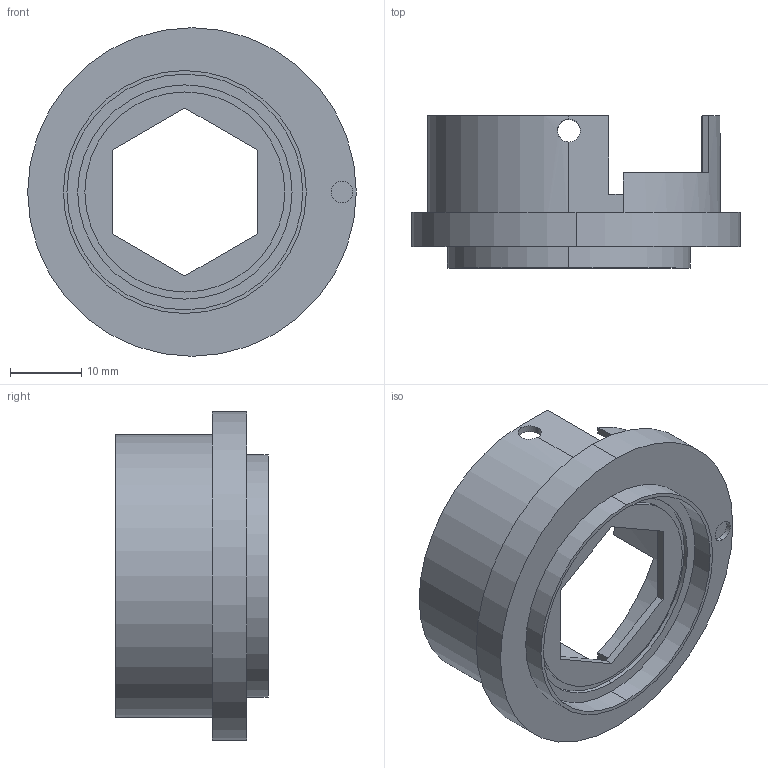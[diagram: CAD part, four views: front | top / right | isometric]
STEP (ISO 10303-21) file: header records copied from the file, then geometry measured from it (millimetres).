
FILE_DESCRIPTION(('Open CASCADE Model'),'2;1');
FILE_NAME('optical-shroud.step','2026-11-14T14:31:58',('Author'),( 'Open CASCADE'),'Open CASCADE STEP processor 8.0','Open CASCADE 8.0' ,'Unknown');
FILE_SCHEMA(('AP242_MANAGED_MODEL_BASED_3D_ENGINEERING_MIM_LF {1 0 10303 442 1 1 4 }' ));
Length unit declared in the file: millimetre
Products named in the file (1): Optical Shroud
Bounding box: 46 x 21.3 x 46 mm (x, y, z)
Volume: 4125.1 mm3; surface area: 8425.6 mm2
Topology: 1 solids, 1 shells, 61 faces, 161 edges, 106 vertices
Faces by surface type: plane 35, cylinder 26
Entity records: 4874 total; most frequent: CARTESIAN_POINT 1619, DIRECTION 619, LINE 347, VECTOR 347, ORIENTED_EDGE 322, PCURVE 322, DEFINITIONAL_REPRESENTATION 322, EDGE_CURVE 161
